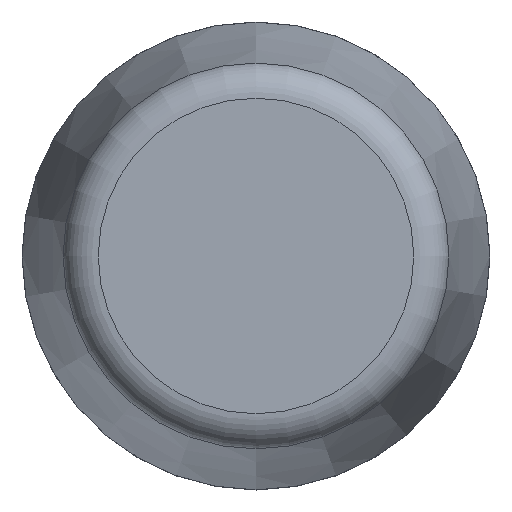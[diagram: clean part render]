
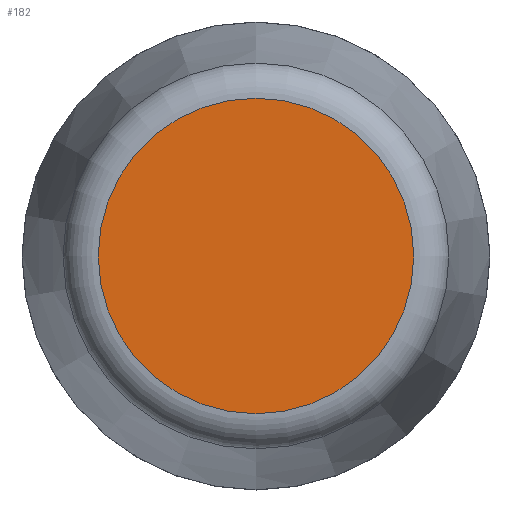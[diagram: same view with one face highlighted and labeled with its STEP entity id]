
A CAD part, front view. The second image highlights one B-rep face of the part: STEP entity #182.
In plain terms, the highlighted planar face has unit normal (0, -1, 0).
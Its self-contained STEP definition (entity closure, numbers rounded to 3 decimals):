
#182 = ADVANCED_FACE( '', ( #217 ), #218, .F. );
#217 = FACE_OUTER_BOUND( '', #292, .T. );
#218 = PLANE( '', #293 );
#292 = EDGE_LOOP( '', ( #368 ) );
#293 = AXIS2_PLACEMENT_3D( '', #369, #370, #371 );
#368 = ORIENTED_EDGE( '', *, *, #564, .T. );
#369 = CARTESIAN_POINT( '', ( 6.681, 0., 0. ) );
#370 = DIRECTION( '', ( 0., 1., 0. ) );
#371 = DIRECTION( '', ( 0., 0., 1. ) );
#564 = EDGE_CURVE( '', #619, #619, #620, .T. );
#619 = VERTEX_POINT( '', #707 );
#620 = CIRCLE( '', #708, 6.681 );
#707 = CARTESIAN_POINT( '', ( 0., 0., -6.681 ) );
#708 = AXIS2_PLACEMENT_3D( '', #938, #939, #940 );
#938 = CARTESIAN_POINT( '', ( 0., 0., 0. ) );
#939 = DIRECTION( '', ( 0., -1., 0. ) );
#940 = DIRECTION( '', ( 0., 0., -1. ) );
